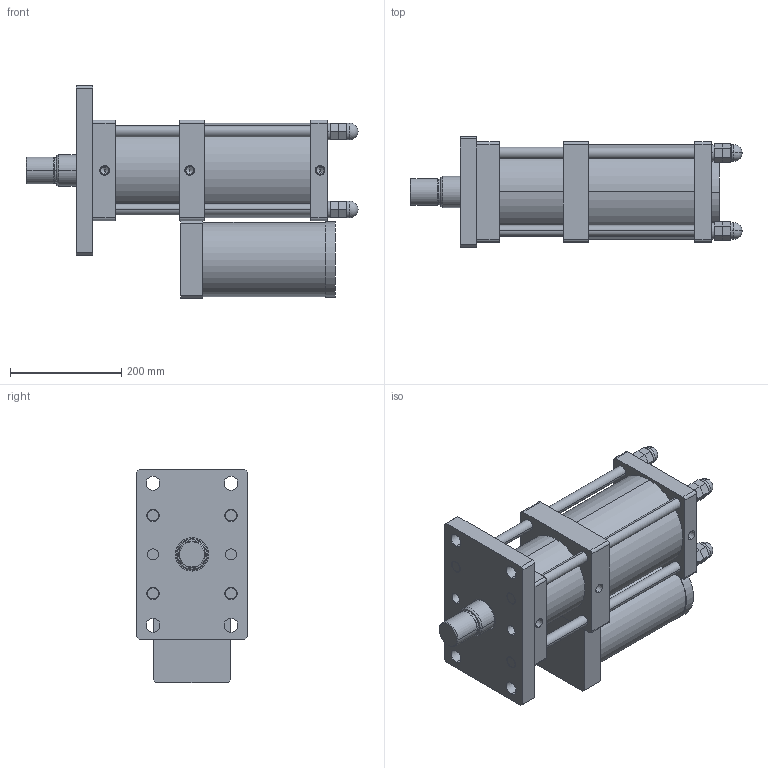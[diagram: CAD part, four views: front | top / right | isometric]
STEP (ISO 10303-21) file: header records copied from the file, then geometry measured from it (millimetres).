
FILE_DESCRIPTION (( 'STEP AP203' ), '1' );
FILE_NAME ('MPT-125-50-10-15T.STEP', '2016-03-11T09:04:43', ( 'WIN' ), ( '' ), 'SwSTEP 2.0', 'SolidWorks 2014', '' );
FILE_SCHEMA (( 'CONFIG_CONTROL_DESIGN' ));
Length unit declared in the file: millimetre
Products named in the file (1): MPT-125-50-10-15T
Bounding box: 596 x 200 x 382.5 mm (x, y, z)
Volume: 13659567.4 mm3; surface area: 1067387 mm2
Topology: 17 solids, 17 shells, 341 faces, 792 edges, 486 vertices
Faces by surface type: plane 155, cylinder 126, cone 30, bspline 12, torus 10, sphere 8
Entity records: 9931 total; most frequent: CARTESIAN_POINT 2032, DIRECTION 1728, ORIENTED_EDGE 1512, EDGE_CURVE 756, AXIS2_PLACEMENT_3D 654, VERTEX_POINT 478, VECTOR 420, LINE 420
